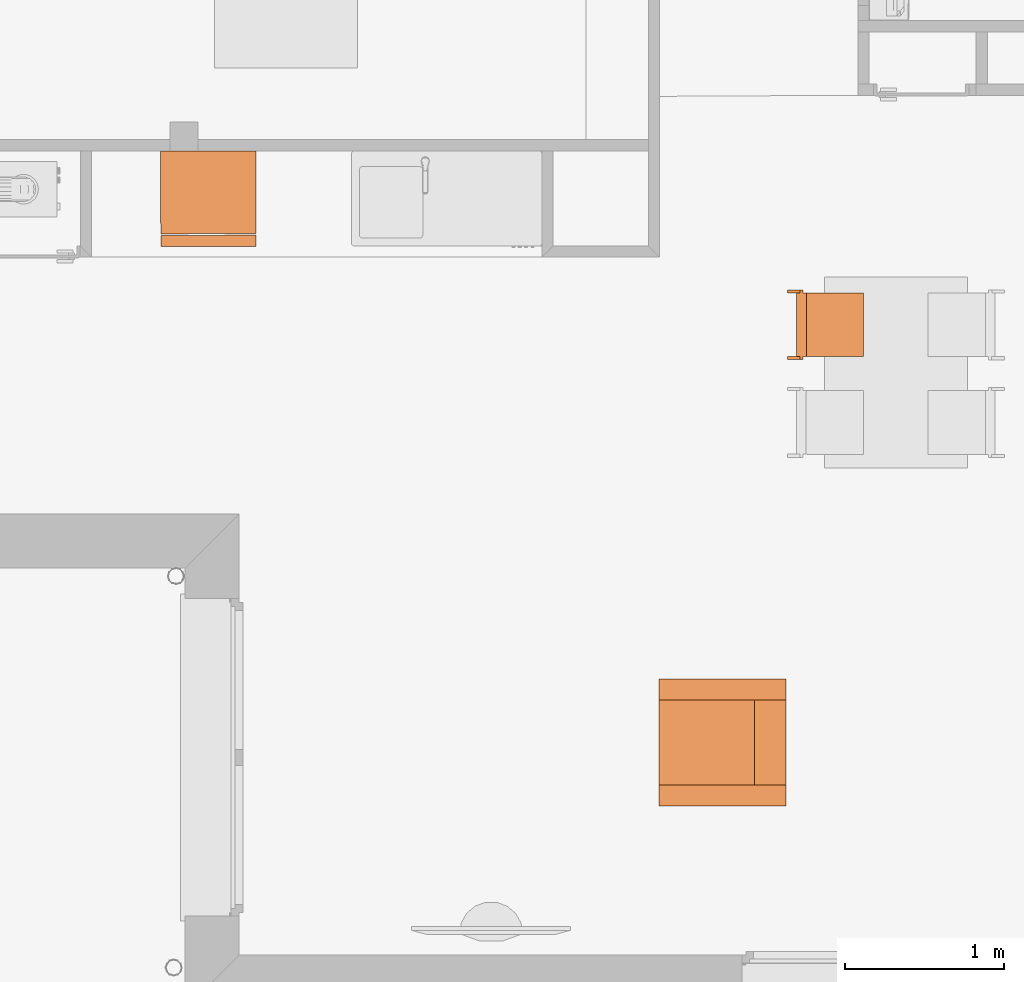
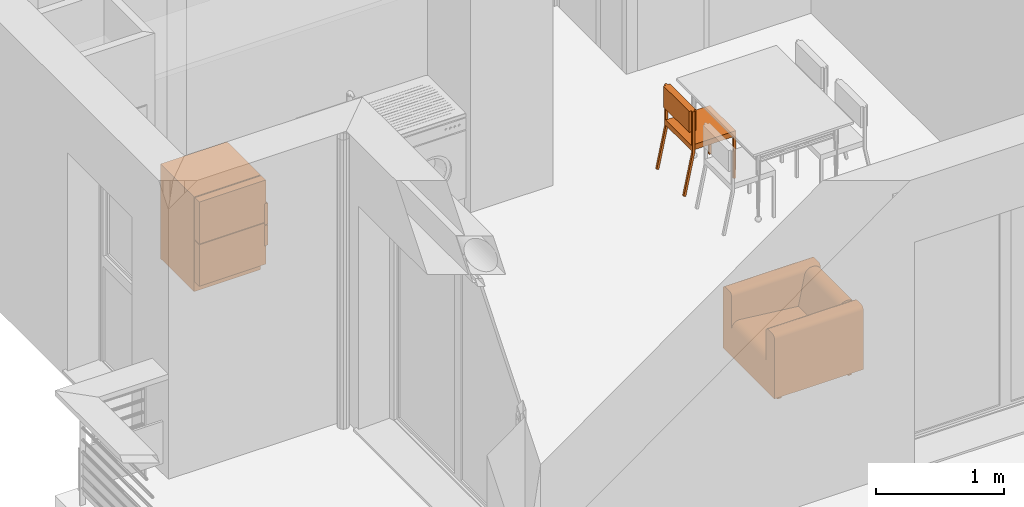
# One storey, part 136 of 164: 3 proxies.
"""IFC2X3 building model written with IfcOpenShell, lengths in millimetres."""

from ifc_helpers import new_model, entity, si_unit, converted_unit, derived_unit, money_unit, direction, frame, origin_with_axes, place, context, subcontext, project, spatial, open_shell, faceted_brep, surface_model, source, transform, mapped, type_object, element, save


model = new_model("IFC2X3")

# Units and contexts
model_context = context("Model", 3, precision=0.01, world=origin_with_axes(), true_north=direction((0.0, 1.0)))
body_context = subcontext(model_context, "Body", "Model", "MODEL_VIEW")
ifc_project = project(units=[si_unit("LENGTHUNIT", "METRE", prefix="MILLI"), si_unit("AREAUNIT", "SQUARE_METRE"), si_unit("VOLUMEUNIT", "CUBIC_METRE"), converted_unit("PLANEANGLEUNIT", "DEGREE", entity("IfcPlaneAngleMeasure", 0.0174532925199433), si_unit("PLANEANGLEUNIT", "RADIAN"), dimensions=[0, 0, 0, 0, 0, 0, 0]), money_unit("USD"), converted_unit("TIMEUNIT", "Year", entity("IfcTimeMeasure", 31557600.0), si_unit("TIMEUNIT", "SECOND"), dimensions=[0, 0, 1, 0, 0, 0, 0]), si_unit("MASSUNIT", "GRAM", prefix="KILO"), si_unit("THERMODYNAMICTEMPERATUREUNIT", "DEGREE_CELSIUS"), si_unit("LUMINOUSINTENSITYUNIT", "LUMEN"), si_unit("ENERGYUNIT", "JOULE", prefix="MEGA"), derived_unit("THERMALCONDUCTANCEUNIT", [(si_unit("POWERUNIT", "WATT"), 1), (si_unit("LENGTHUNIT", "METRE"), -1), (si_unit("THERMODYNAMICTEMPERATUREUNIT", "KELVIN"), -1)]), derived_unit("SPECIFICHEATCAPACITYUNIT", [(si_unit("ENERGYUNIT", "JOULE"), 1), (si_unit("MASSUNIT", "GRAM", prefix="KILO"), -1), (si_unit("THERMODYNAMICTEMPERATUREUNIT", "KELVIN"), -1)]), derived_unit("MASSDENSITYUNIT", [(si_unit("MASSUNIT", "GRAM", prefix="KILO"), 1), (si_unit("VOLUMEUNIT", "CUBIC_METRE"), -1)])], contexts=[model_context])

# Site, building, storey
site_placement = place(None, origin_with_axes())
site = spatial("IfcSite", under=ifc_project, at=site_placement, Name="Site", CompositionType="ELEMENT")
building_placement = place(site_placement, origin_with_axes())
building = spatial("IfcBuilding", under=site, at=building_placement, Name="Bâtiment", CompositionType="ELEMENT")
storey_placement = place(building_placement, frame((0.0, 0.0, 5750.0), z_axis=(0.0, 0.0, 1.0), x_axis=(1.0, 0.0, 0.0)))
storey = spatial("IfcBuildingStorey", under=building, at=storey_placement, Name="Etage1", CompositionType="ELEMENT", Elevation=5750.0)

# Proxies
building_element_proxy_type = type_object("IfcBuildingElementProxyType", PredefinedType="NOTDEFINED")
shared_shape_1 = source(origin_with_axes(), body_context, "Body", "Brep", [
    faceted_brep([(-39.99999978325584, 0.0, 0.0), (-39.99999978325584, 19.99999936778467, 0.0), (-19.99999989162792, 19.99999936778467, 0.0), (-19.99999989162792, 0.0, 0.0), (-39.99999978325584, 0.0, 400.0), (-39.99999978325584, 19.99999936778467, 400.0), (-19.99999989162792, 19.99999936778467, 400.0), (-19.99999989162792, 0.0, 400.0)], [[[0, 1, 2, 3]], [[0, 4, 5, 1]], [[1, 5, 6, 2]], [[2, 6, 7, 3]], [[3, 7, 4, 0]], [[7, 6, 5, 4]]]),
    faceted_brep([(-419.9999977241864, 0.0, 0.0), (-419.9999977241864, 19.99999936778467, 0.0), (-399.9999978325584, 19.99999936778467, 0.0), (-399.9999978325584, 0.0, 0.0), (-419.9999977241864, 0.0, 400.0), (-419.9999977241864, 19.99999936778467, 400.0), (-399.9999978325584, 19.99999936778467, 400.0), (-399.9999978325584, 0.0, 400.0)], [[[0, 1, 2, 3]], [[0, 4, 5, 1]], [[1, 5, 6, 2]], [[2, 6, 7, 3]], [[3, 7, 4, 0]], [[7, 6, 5, 4]]]),
    faceted_brep([(-399.9999978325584, 0.0, 400.0000000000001), (-399.9999978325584, 19.99999936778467, 400.0000000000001), (-39.99999978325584, 19.99999936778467, 400.0000000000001), (-39.99999978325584, 0.0, 400.0000000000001), (-399.9999978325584, 0.0, 420.0000000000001), (-399.9999978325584, 19.99999936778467, 420.0000000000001), (-39.99999978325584, 19.99999936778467, 420.0000000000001), (-39.99999978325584, 0.0, 420.0000000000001)], [[[0, 1, 2, 3]], [[0, 4, 5, 1]], [[1, 5, 6, 2]], [[2, 6, 7, 3]], [[3, 7, 4, 0]], [[7, 6, 5, 4]]]),
    faceted_brep([(-39.99999978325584, 19.99999936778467, 400.0000000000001), (-39.99999978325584, 379.9999879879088, 400.0000000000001), (-19.99999989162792, 379.9999879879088, 400.0000000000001), (-19.99999989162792, 19.99999936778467, 400.0000000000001), (-39.99999978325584, 19.99999936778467, 420.0000000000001), (-39.99999978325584, 379.9999879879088, 420.0000000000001), (-19.99999989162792, 379.9999879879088, 420.0000000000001), (-19.99999989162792, 19.99999936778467, 420.0000000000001)], [[[0, 1, 2, 3]], [[0, 4, 5, 1]], [[1, 5, 6, 2]], [[2, 6, 7, 3]], [[3, 7, 4, 0]], [[7, 6, 5, 4]]]),
    faceted_brep([(-419.9999977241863, 379.9999879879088, 400.0000000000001), (-419.9999977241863, 399.9999873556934, 400.0000000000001), (-19.99999989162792, 399.9999873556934, 400.0000000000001), (-19.99999989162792, 379.9999879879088, 400.0000000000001), (-419.9999977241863, 379.9999879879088, 420.0000000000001), (-419.9999977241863, 399.9999873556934, 420.0000000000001), (-19.99999989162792, 399.9999873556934, 420.0000000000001), (-19.99999989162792, 379.9999879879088, 420.0000000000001)], [[[0, 1, 2, 3]], [[0, 4, 5, 1]], [[1, 5, 6, 2]], [[2, 6, 7, 3]], [[3, 7, 4, 0]], [[7, 6, 5, 4]]]),
    faceted_brep([(-419.9999977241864, 19.99999936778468, 400.0000000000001), (-419.9999977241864, 379.9999879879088, 400.0000000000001), (-399.9999978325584, 379.9999879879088, 400.0000000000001), (-399.9999978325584, 19.99999936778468, 400.0000000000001), (-419.9999977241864, 19.99999936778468, 420.0000000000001), (-419.9999977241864, 379.9999879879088, 420.0000000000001), (-399.9999978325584, 379.9999879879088, 420.0000000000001), (-399.9999978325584, 19.99999936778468, 420.0000000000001)], [[[0, 1, 2, 3]], [[0, 4, 5, 1]], [[1, 5, 6, 2]], [[2, 6, 7, 3]], [[3, 7, 4, 0]], [[7, 6, 5, 4]]]),
    faceted_brep([(-419.9999977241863, 0.0, 400.0), (-419.9999977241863, 399.9999873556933, 400.0), (-19.99999989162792, 399.9999873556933, 400.0), (-19.99999989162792, 0.0, 400.0), (-419.9999977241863, 0.0, 450.0), (-419.9999977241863, 399.9999873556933, 450.0), (-19.99999989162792, 399.9999873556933, 450.0), (-19.99999989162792, 0.0, 450.0)], [[[0, 1, 2, 3]], [[0, 4, 5, 1]], [[1, 5, 6, 2]], [[2, 6, 7, 3]], [[3, 7, 4, 0]], [[7, 6, 5, 4]]]),
    faceted_brep([(-19.99999989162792, 379.9999879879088, 380.0), (-19.99999989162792, 399.9999873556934, 380.0), (0.0, 399.9999873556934, 380.0), (0.0, 379.9999879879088, 380.0), (-19.99999989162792, 379.9999879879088, 780.0), (-19.99999989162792, 399.9999873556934, 780.0), (0.0, 399.9999873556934, 780.0), (0.0, 379.9999879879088, 780.0)], [[[0, 1, 2, 3]], [[0, 4, 5, 1]], [[1, 5, 6, 2]], [[2, 6, 7, 3]], [[3, 7, 4, 0]], [[7, 6, 5, 4]]]),
    faceted_brep([(-439.9999976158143, 379.9999879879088, 380.0), (-439.9999976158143, 399.9999873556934, 380.0), (-419.9999977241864, 399.9999873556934, 380.0), (-419.9999977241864, 379.9999879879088, 380.0), (-439.9999976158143, 379.9999879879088, 780.0), (-439.9999976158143, 399.9999873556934, 780.0), (-419.9999977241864, 399.9999873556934, 780.0), (-419.9999977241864, 379.9999879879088, 780.0)], [[[0, 1, 2, 3]], [[0, 4, 5, 1]], [[1, 5, 6, 2]], [[2, 6, 7, 3]], [[3, 7, 4, 0]], [[7, 6, 5, 4]]]),
    faceted_brep([(-419.9999977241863, 359.999988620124, 580.0000000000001), (-419.9999977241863, 419.9999867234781, 580.0000000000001), (-19.99999989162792, 419.9999867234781, 580.0000000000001), (-19.99999989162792, 359.999988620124, 580.0000000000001), (-419.9999977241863, 359.999988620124, 780.0), (-419.9999977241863, 419.9999867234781, 780.0), (-19.99999989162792, 419.9999867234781, 780.0), (-19.99999989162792, 359.999988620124, 780.0)], [[[0, 1, 2, 3]], [[0, 4, 5, 1]], [[1, 5, 6, 2]], [[2, 6, 7, 3]], [[3, 7, 4, 0]], [[7, 6, 5, 4]]]),
    faceted_brep([(-19.99999989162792, 459.9999854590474, 0.0), (-19.99999989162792, 479.5709559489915, 4.120326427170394), (0.0, 479.5709559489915, 4.120326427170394), (0.0, 459.9999854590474, 0.0), (-19.99999989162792, 379.997669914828, 379.999760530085), (-19.99999989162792, 399.5686404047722, 384.1200869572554), (0.0, 399.5686404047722, 384.1200869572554), (0.0, 379.997669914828, 379.999760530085)], [[[0, 1, 2, 3]], [[0, 4, 5, 1]], [[1, 5, 6, 2]], [[2, 6, 7, 3]], [[3, 7, 4, 0]], [[7, 6, 5, 4]]]),
    faceted_brep([(-439.9999976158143, 459.9999854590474, 0.0), (-439.9999976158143, 479.5709559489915, 4.120326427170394), (-419.9999977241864, 479.5709559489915, 4.120326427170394), (-419.9999977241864, 459.9999854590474, 0.0), (-439.9999976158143, 379.997669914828, 379.999760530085), (-439.9999976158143, 399.5686404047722, 384.1200869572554), (-419.9999977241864, 399.5686404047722, 384.1200869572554), (-419.9999977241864, 379.997669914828, 379.999760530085)], [[[0, 1, 2, 3]], [[0, 4, 5, 1]], [[1, 5, 6, 2]], [[2, 6, 7, 3]], [[3, 7, 4, 0]], [[7, 6, 5, 4]]]),
])
proxy_1_placement = place(storey_placement, frame((2222505.964258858, -653288.6052299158, 0.0), z_axis=(0.0, 0.0, 1.0), x_axis=(8.510155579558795e-05, 0.9999999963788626, 0.0)))
element("IfcBuildingElementProxy", 1, at=proxy_1_placement, inside=storey, type_object=building_element_proxy_type, Name="Obj.-027", context=body_context, shape_type="MappedRepresentation", body=[
    mapped(shared_shape_1, transform((0.0, 0.0, 0.0))),
])
shared_shape_2 = source(origin_with_axes(), body_context, "Body", "Brep", [
    faceted_brep([(-333.3000000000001, 66.7, 0.0), (-333.3000000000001, 100.0, 0.0), (-300.0000000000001, 100.0, 0.0), (-300.0000000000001, 66.7, 0.0), (-333.3000000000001, 66.7, 66.69999999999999), (-333.3000000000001, 100.0, 66.69999999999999), (-300.0000000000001, 100.0, 66.69999999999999), (-300.0000000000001, 66.7, 66.69999999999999)], [[[0, 1, 2, 3]], [[0, 4, 5, 1]], [[1, 5, 6, 2]], [[2, 6, 7, 3]], [[3, 7, 4, 0]], [[7, 6, 5, 4]]]),
    faceted_brep([(-333.3000000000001, 700.0000000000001, 0.0), (-333.3000000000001, 733.3000000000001, 0.0), (-300.0000000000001, 733.3000000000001, 0.0), (-300.0000000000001, 700.0000000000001, 0.0), (-333.3000000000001, 700.0000000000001, 66.69999999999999), (-333.3000000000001, 733.3000000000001, 66.69999999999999), (-300.0000000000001, 733.3000000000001, 66.69999999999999), (-300.0000000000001, 700.0000000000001, 66.69999999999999)], [[[0, 1, 2, 3]], [[0, 4, 5, 1]], [[1, 5, 6, 2]], [[2, 6, 7, 3]], [[3, 7, 4, 0]], [[7, 6, 5, 4]]]),
    faceted_brep([(300.0000000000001, 66.7, 0.0), (300.0000000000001, 100.0, 0.0), (333.3000000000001, 100.0, 0.0), (333.3000000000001, 66.7, 0.0), (300.0000000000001, 66.7, 66.69999999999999), (300.0000000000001, 100.0, 66.69999999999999), (333.3000000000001, 100.0, 66.69999999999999), (333.3000000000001, 66.7, 66.69999999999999)], [[[0, 1, 2, 3]], [[0, 4, 5, 1]], [[1, 5, 6, 2]], [[2, 6, 7, 3]], [[3, 7, 4, 0]], [[7, 6, 5, 4]]]),
    faceted_brep([(300.0000000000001, 700.0000000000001, 0.0), (300.0000000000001, 733.3000000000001, 0.0), (333.3000000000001, 733.3000000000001, 0.0), (333.3000000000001, 700.0000000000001, 0.0), (300.0000000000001, 700.0000000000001, 66.69999999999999), (300.0000000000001, 733.3000000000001, 66.69999999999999), (333.3000000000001, 733.3000000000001, 66.69999999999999), (333.3000000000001, 700.0000000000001, 66.69999999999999)], [[[0, 1, 2, 3]], [[0, 4, 5, 1]], [[1, 5, 6, 2]], [[2, 6, 7, 3]], [[3, 7, 4, 0]], [[7, 6, 5, 4]]]),
    faceted_brep([(-266.7, 800.0, 66.69999999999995), (-266.7, 0.0, 66.69999999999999), (-400.033, 0.0, 66.69999999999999), (-400.033, 800.0, 66.69999999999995), (-266.7, 800.0, 67.19999999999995), (-266.7, 0.0, 67.19999999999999), (-266.7, 0.0, 633.37), (-266.7, 0.0, 636.2859999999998), (-267.713, 0.0, 642.029), (-269.707, 0.0, 647.5099999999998), (-272.623, 0.0, 652.5599999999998), (-276.372, 0.0, 657.0279999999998), (-280.84, 0.0, 660.7769999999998), (-285.89, 0.0, 663.6929999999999), (-291.371, 0.0, 665.6869999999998), (-297.114, 0.0, 666.6999999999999), (-300.03, 0.0, 666.6999999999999), (-366.703, 0.0, 666.6999999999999), (-369.619, 0.0, 666.6999999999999), (-375.363, 0.0, 665.6869999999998), (-380.843, 0.0, 663.6929999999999), (-385.894, 0.0, 660.7769999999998), (-390.361, 0.0, 657.0279999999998), (-394.11, 0.0, 652.5599999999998), (-397.026, 0.0, 647.5099999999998), (-399.021, 0.0, 642.029), (-400.033, 0.0, 636.2859999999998), (-400.033, 0.0, 633.37), (-400.033, 800.0, 633.37), (-400.033, 800.0, 636.2859999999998), (-399.021, 800.0, 642.029), (-397.026, 800.0, 647.5099999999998), (-394.11, 800.0, 652.5599999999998), (-390.361, 800.0, 657.0279999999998), (-385.894, 800.0, 660.7769999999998), (-380.843, 800.0, 663.6929999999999), (-375.363, 800.0, 665.6869999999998), (-369.619, 800.0, 666.6999999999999), (-366.703, 800.0, 666.6999999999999), (-300.03, 800.0, 666.6999999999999), (-297.114, 800.0, 666.6999999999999), (-291.371, 800.0, 665.6869999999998), (-285.89, 800.0, 663.6929999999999), (-280.84, 800.0, 660.7769999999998), (-276.372, 800.0, 657.0279999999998), (-272.623, 800.0, 652.5599999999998), (-269.707, 800.0, 647.5099999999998), (-267.713, 800.0, 642.029), (-266.7, 800.0, 636.2859999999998), (-266.7, 800.0, 633.37)], [[[0, 1, 2, 3]], [[4, 5, 1, 0]], [[1, 5, 6, 7, 8, 9, 10, 11, 12, 13, 14, 15, 16, 17, 18, 19, 20, 21, 22, 23, 24, 25, 26, 27, 2]], [[3, 2, 27, 28]], [[0, 3, 28, 29, 30, 31, 32, 33, 34, 35, 36, 37, 38, 39, 40, 41, 42, 43, 44, 45, 46, 47, 48, 49, 4]], [[49, 6, 5, 4]], [[48, 7, 6, 49]], [[47, 8, 7, 48]], [[46, 9, 8, 47]], [[45, 10, 9, 46]], [[44, 11, 10, 45]], [[43, 12, 11, 44]], [[42, 13, 12, 43]], [[41, 14, 13, 42]], [[40, 15, 14, 41]], [[39, 16, 15, 40]], [[38, 17, 16, 39]], [[37, 18, 17, 38]], [[36, 19, 18, 37]], [[35, 20, 19, 36]], [[34, 21, 20, 35]], [[33, 22, 21, 34]], [[32, 23, 22, 33]], [[31, 24, 23, 32]], [[30, 25, 24, 31]], [[29, 26, 25, 30]], [[28, 27, 26, 29]]]),
    faceted_brep([(400.0, 800.0, 66.69999999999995), (400.0, 0.0, 66.69999999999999), (266.667, 0.0, 66.69999999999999), (266.667, 800.0, 66.69999999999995), (400.0, 800.0, 67.19999999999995), (400.0, 0.0, 67.19999999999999), (400.0, 0.0, 633.37), (400.0, 0.0, 636.2859999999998), (398.987, 0.0, 642.029), (396.9930000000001, 0.0, 647.5099999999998), (394.077, 0.0, 652.5599999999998), (390.328, 0.0, 657.0279999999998), (385.86, 0.0, 660.7769999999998), (380.8100000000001, 0.0, 663.6929999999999), (375.329, 0.0, 665.6869999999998), (369.586, 0.0, 666.6999999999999), (366.67, 0.0, 666.6999999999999), (299.997, 0.0, 666.6999999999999), (297.081, 0.0, 666.6999999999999), (291.337, 0.0, 665.6869999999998), (285.857, 0.0, 663.6929999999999), (280.806, 0.0, 660.7769999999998), (276.339, 0.0, 657.0279999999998), (272.59, 0.0, 652.5599999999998), (269.674, 0.0, 647.5099999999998), (267.679, 0.0, 642.029), (266.667, 0.0, 636.2859999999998), (266.667, 0.0, 633.37), (266.667, 800.0, 633.37), (266.667, 800.0, 636.2859999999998), (267.679, 800.0, 642.029), (269.674, 800.0, 647.5099999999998), (272.59, 800.0, 652.5599999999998), (276.339, 800.0, 657.0279999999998), (280.806, 800.0, 660.7769999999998), (285.857, 800.0, 663.6929999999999), (291.337, 800.0, 665.6869999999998), (297.081, 800.0, 666.6999999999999), (299.997, 800.0, 666.6999999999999), (366.67, 800.0, 666.6999999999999), (369.586, 800.0, 666.6999999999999), (375.329, 800.0, 665.6869999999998), (380.8100000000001, 800.0, 663.6929999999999), (385.86, 800.0, 660.7769999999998), (390.328, 800.0, 657.0279999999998), (394.077, 800.0, 652.5599999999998), (396.9930000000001, 800.0, 647.5099999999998), (398.987, 800.0, 642.029), (400.0, 800.0, 636.2859999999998), (400.0, 800.0, 633.37)], [[[0, 1, 2, 3]], [[4, 5, 1, 0]], [[1, 5, 6, 7, 8, 9, 10, 11, 12, 13, 14, 15, 16, 17, 18, 19, 20, 21, 22, 23, 24, 25, 26, 27, 2]], [[3, 2, 27, 28]], [[0, 3, 28, 29, 30, 31, 32, 33, 34, 35, 36, 37, 38, 39, 40, 41, 42, 43, 44, 45, 46, 47, 48, 49, 4]], [[49, 6, 5, 4]], [[48, 7, 6, 49]], [[47, 8, 7, 48]], [[46, 9, 8, 47]], [[45, 10, 9, 46]], [[44, 11, 10, 45]], [[43, 12, 11, 44]], [[42, 13, 12, 43]], [[41, 14, 13, 42]], [[40, 15, 14, 41]], [[39, 16, 15, 40]], [[38, 17, 16, 39]], [[37, 18, 17, 38]], [[36, 19, 18, 37]], [[35, 20, 19, 36]], [[34, 21, 20, 35]], [[33, 22, 21, 34]], [[32, 23, 22, 33]], [[31, 24, 23, 32]], [[30, 25, 24, 31]], [[29, 26, 25, 30]], [[28, 27, 26, 29]]]),
    faceted_brep([(266.6667, 0.0, 66.69999999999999), (-266.6333, 0.0, 66.69999999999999), (-266.6333, 800.0, 66.69999999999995), (266.6667, 800.0, 66.69999999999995), (266.6667, 0.0, 67.2), (-266.6333, 0.0, 67.2), (-266.6333, 0.0, 325.5449999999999), (-266.6333, -0.2359999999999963, 327.1109999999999), (-266.6333, 1.052000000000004, 338.7049999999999), (-266.6333, 4.334000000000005, 349.8989999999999), (-266.6333, 9.510000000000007, 360.3539999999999), (-266.6333, 16.42300000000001, 369.7509999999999), (-266.6333, 24.86200000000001, 377.8049999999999), (-266.6333, 34.57200000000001, 384.271), (-266.6333, 45.25800000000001, 388.9519999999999), (-266.6333, 56.59300000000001, 391.707), (-266.6333, 68.23500000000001, 392.4519999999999), (-266.6333, 74.03200000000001, 391.808), (-266.6333, 600.0000000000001, 333.3669999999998), (-266.6333, 600.0980000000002, 333.8569999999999), (-266.6333, 655.9480000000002, 613.1049999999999), (-266.6333, 656.6790000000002, 617.351), (-266.6333, 660.6690000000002, 628.314), (-266.6333, 666.5020000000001, 638.4159999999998), (-266.6333, 674.0000000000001, 647.3529999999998), (-266.6333, 682.937, 654.8509999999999), (-266.6333, 693.0390000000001, 660.6839999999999), (-266.6333, 704.0020000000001, 664.6739999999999), (-266.6333, 715.4900000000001, 666.6999999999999), (-266.6333, 721.3230000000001, 666.6999999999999), (-266.6333, 733.33, 666.6999999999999), (-266.6333, 739.163, 666.6999999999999), (-266.6333, 750.6510000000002, 664.6739999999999), (-266.6333, 761.614, 660.6839999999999), (-266.6333, 771.716, 654.8509999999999), (-266.6333, 780.653, 647.3529999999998), (-266.6333, 788.1510000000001, 638.4159999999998), (-266.6333, 793.984, 628.314), (-266.6333, 797.974, 617.351), (-266.6333, 800.0, 605.8629999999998), (-266.6333, 800.0, 600.0299999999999), (266.6667, 800.0, 600.0299999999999), (266.6667, 800.0, 605.8629999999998), (266.6667, 797.974, 617.351), (266.6667, 793.984, 628.314), (266.6667, 788.1510000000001, 638.4159999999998), (266.6667, 780.653, 647.3529999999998), (266.6667, 771.716, 654.8509999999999), (266.6667, 761.614, 660.6839999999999), (266.6667, 750.6510000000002, 664.6739999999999), (266.6667, 739.163, 666.6999999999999), (266.6667, 733.33, 666.6999999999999), (266.6667, 721.3230000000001, 666.6999999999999), (266.6667, 715.4900000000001, 666.6999999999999), (266.6667, 704.0020000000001, 664.6739999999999), (266.6667, 693.0390000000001, 660.6839999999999), (266.6667, 682.937, 654.8509999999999), (266.6667, 674.0000000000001, 647.3529999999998), (266.6667, 666.5020000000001, 638.4159999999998), (266.6667, 660.6690000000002, 628.314), (266.6667, 656.6790000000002, 617.351), (266.6667, 655.9480000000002, 613.1049999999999), (266.6667, 600.0980000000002, 333.8569999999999), (266.6667, 600.0000000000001, 333.3669999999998), (266.6667, 74.03200000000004, 391.808), (266.6667, 68.23500000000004, 392.4519999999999), (266.6667, 56.59300000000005, 391.707), (266.6667, 45.25800000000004, 388.9519999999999), (266.6667, 34.57200000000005, 384.271), (266.6667, 24.86200000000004, 377.8049999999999), (266.6667, 16.42300000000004, 369.7509999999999), (266.6667, 9.510000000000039, 360.3539999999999), (266.6667, 4.334000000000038, 349.8989999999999), (266.6667, 1.052000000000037, 338.7049999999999), (266.6667, -0.2359999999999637, 327.1109999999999), (266.6667, 0.0, 325.5449999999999)], [[[0, 1, 2, 3]], [[4, 5, 1, 0]], [[1, 5, 6, 7, 8, 9, 10, 11, 12, 13, 14, 15, 16, 17, 18, 19, 20, 21, 22, 23, 24, 25, 26, 27, 28, 29, 30, 31, 32, 33, 34, 35, 36, 37, 38, 39, 40, 2]], [[3, 2, 40, 41]], [[0, 3, 41, 42, 43, 44, 45, 46, 47, 48, 49, 50, 51, 52, 53, 54, 55, 56, 57, 58, 59, 60, 61, 62, 63, 64, 65, 66, 67, 68, 69, 70, 71, 72, 73, 74, 75, 4]], [[75, 6, 5, 4]], [[74, 7, 6, 75]], [[73, 8, 7, 74]], [[72, 9, 8, 73]], [[71, 10, 9, 72]], [[70, 11, 10, 71]], [[69, 12, 11, 70]], [[68, 13, 12, 69]], [[67, 14, 13, 68]], [[66, 15, 14, 67]], [[65, 16, 15, 66]], [[64, 17, 16, 65]], [[63, 18, 17, 64]], [[62, 19, 18, 63]], [[61, 20, 19, 62]], [[60, 21, 20, 61]], [[59, 22, 21, 60]], [[58, 23, 22, 59]], [[57, 24, 23, 58]], [[56, 25, 24, 57]], [[55, 26, 25, 56]], [[54, 27, 26, 55]], [[53, 28, 27, 54]], [[52, 29, 28, 53]], [[51, 30, 29, 52]], [[50, 31, 30, 51]], [[49, 32, 31, 50]], [[48, 33, 32, 49]], [[47, 34, 33, 48]], [[46, 35, 34, 47]], [[45, 36, 35, 46]], [[44, 37, 36, 45]], [[43, 38, 37, 44]], [[42, 39, 38, 43]], [[41, 40, 39, 42]]]),
])
proxy_2_placement = place(storey_placement, frame((2221219.385349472, -656138.8452786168, 0.0), z_axis=(0.0, 0.0, 1.0), x_axis=(0.0, -1.0, 0.0)))
element("IfcBuildingElementProxy", 2, at=proxy_2_placement, inside=storey, type_object=building_element_proxy_type, Name="Obj.-034", context=body_context, shape_type="MappedRepresentation", body=[
    mapped(shared_shape_2, transform((0.0, 0.0, 0.0))),
])
shared_shape_3 = source(origin_with_axes(), body_context, "Body", "SurfaceModel", [
    faceted_brep([(0.0, 80.0, 100.0), (600.0, 80.0, 100.0), (600.0, 80.0, 900.0), (0.0, 80.0, 900.0), (0.0, 600.0, 100.0), (600.0, 600.0, 100.0), (600.0, 600.0, 900.0), (0.0, 600.0, 900.0)], [[[0, 1, 2, 3]], [[0, 4, 5, 1]], [[1, 5, 6, 2]], [[3, 2, 6, 7]], [[4, 0, 3, 7]], [[5, 4, 7, 6]]]),
    faceted_brep([(0.0, 80.0, 0.0), (600.0, 80.0, 0.0), (600.0, 80.0, 100.0), (0.0, 80.0, 100.0), (0.0, 600.0, 0.0), (600.0, 600.0, 0.0), (600.0, 600.0, 100.0), (0.0, 600.0, 100.0)], [[[0, 1, 2, 3]], [[0, 4, 5, 1]], [[1, 5, 6, 2]], [[3, 2, 6, 7]], [[4, 0, 3, 7]], [[5, 4, 7, 6]]]),
    faceted_brep([(0.0, 70.0, 100.0), (600.0, 70.0, 100.0), (600.0, 0.0, 100.0), (0.0, 0.0, 100.0), (0.0, 70.00000000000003, 494.0), (600.0, 70.00000000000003, 494.0), (600.0, 0.0, 494.0), (0.0, 0.0, 494.0)], [[[0, 1, 2, 3]], [[0, 4, 5, 1]], [[1, 5, 6, 2]], [[3, 2, 6, 7]], [[4, 0, 3, 7]], [[5, 4, 7, 6]]]),
    faceted_brep([(0.0, 70.0, 500.0), (600.0, 70.0, 500.0), (600.0, 0.0, 500.0), (0.0, 0.0, 500.0), (0.0, 70.00000000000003, 900.0), (600.0, 70.00000000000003, 900.0), (600.0, 0.0, 900.0), (0.0, 0.0, 900.0)], [[[0, 1, 2, 3]], [[0, 4, 5, 1]], [[1, 5, 6, 2]], [[3, 2, 6, 7]], [[4, 0, 3, 7]], [[5, 4, 7, 6]]]),
    surface_model("IfcShellBasedSurfaceModel", [(600.0, -30.0, 300.0000000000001), (600.0, -30.0, 494.0000000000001), (600.0, 0.0, 494.0000000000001), (600.0, 0.0, 300.0000000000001)], [open_shell([[[0, 1, 2, 3]]])]),
    surface_model("IfcShellBasedSurfaceModel", [(600.0, -30.0, 300.0000000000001), (600.0, -30.0, 494.0000000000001), (570.0, -30.0, 494.0000000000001), (570.0, -30.0, 300.0000000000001)], [open_shell([[[0, 1, 2, 3]]])]),
    surface_model("IfcShellBasedSurfaceModel", [(600.0, -30.0, 500.0), (600.0, -30.0, 700.0), (600.0, 0.0, 700.0), (600.0, 0.0, 500.0)], [open_shell([[[0, 1, 2, 3]]])]),
    surface_model("IfcShellBasedSurfaceModel", [(600.0, -30.0, 500.0), (600.0, -30.0, 700.0), (570.0, -30.0, 700.0), (570.0, -30.0, 500.0)], [open_shell([[[0, 1, 2, 3]]])]),
])
proxy_3_placement = place(storey_placement, frame((2218081.555746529, -653015.6457521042, 0.0), z_axis=(0.0, 0.0, 1.0), x_axis=(0.9999969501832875, 0.002469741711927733, 0.0)))
element("IfcBuildingElementProxy", 3, at=proxy_3_placement, inside=storey, type_object=building_element_proxy_type, Name="Obj.-019", context=body_context, shape_type="MappedRepresentation", body=[
    mapped(shared_shape_3, transform((0.0, 0.0, 0.0))),
])

save(model, "model.ifc")
